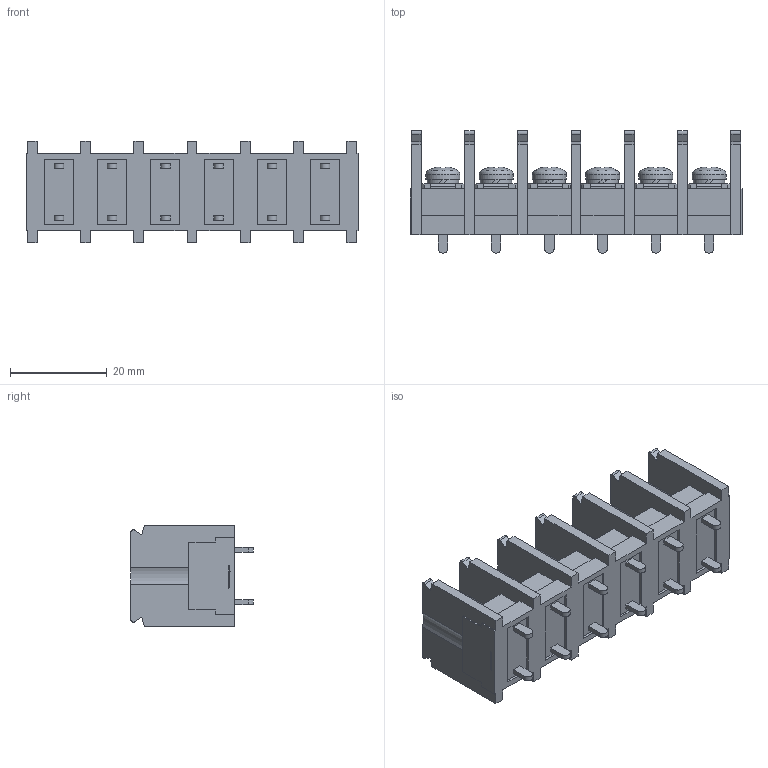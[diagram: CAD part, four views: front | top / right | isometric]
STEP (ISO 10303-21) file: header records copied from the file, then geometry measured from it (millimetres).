
FILE_DESCRIPTION(/* description */ ('Alibre Inc.'),/* implementation_level */ '2;1');
FILE_NAME(/* name */ 'export0',/* time_stamp */ '2015-12-02T12:34:00+09:00',/* author */ (''),/* organization */ (''),/* preprocessor_version */ 'ST-DEVELOPER v14',/* originating_system */ 'Alibre',/* authorisation */ '');
FILE_SCHEMA (('CONFIG_CONTROL_DESIGN'));
Length unit declared in the file: centimetre
Products named in the file (1): ID_1
Bounding box: 68.6 x 25.3 x 21 mm (x, y, z)
Volume: 12536.4 mm3; surface area: 13417.4 mm2
Topology: 1 solids, 17 shells, 1016 faces, 2748 edges, 1828 vertices
Faces by surface type: plane 794, bspline 104, cylinder 76, cone 30, sphere 6, torus 6
Full cylindrical faces by diameter (mm): 4 x6, 6.5 x6, 7 x6
Entity records: 30507 total; most frequent: CARTESIAN_POINT 6574, ORIENTED_EDGE 5448, DIRECTION 3697, EDGE_CURVE 2724, VECTOR 2095, LINE 2095, VERTEX_POINT 1828, AXIS2_PLACEMENT_3D 1163
